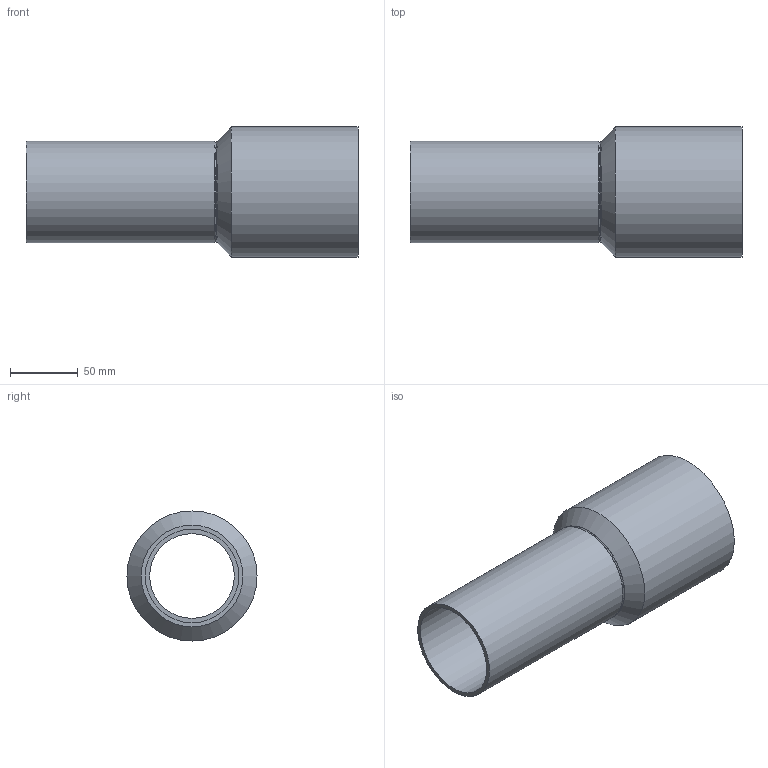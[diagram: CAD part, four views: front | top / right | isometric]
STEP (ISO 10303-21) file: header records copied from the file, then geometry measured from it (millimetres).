
FILE_DESCRIPTION(/* description */ (''),/* implementation_level */ '2;1');
FILE_NAME(/* name */ 'Z:\Geberit\Export\NewStep\152151.stp',/* time_stamp */ '2014-03-31T08:23:09+02:00',/* author */ ('nelson'),/* organization */ (''),/* preprocessor_version */ 'ST-DEVELOPER v15.2',/* originating_system */ 'Autodesk Inventor 2014',/* authorisation */ '');
FILE_SCHEMA (('AUTOMOTIVE_DESIGN { 1 0 10303 214 3 1 1 }'));
Length unit declared in the file: millimetre
Products named in the file (1): 152151
Bounding box: 245 x 96 x 96 mm (x, y, z)
Volume: 192714 mm3; surface area: 128568.8 mm2
Topology: 1 solids, 1 shells, 13 faces, 23 edges, 13 vertices
Faces by surface type: cylinder 6, cone 4, plane 3
Full cylindrical faces by diameter (mm): 62.5 x1, 69 x1, 75 x2, 90 x1, 96 x1
Entity records: 289 total; most frequent: DIRECTION 54, CARTESIAN_POINT 40, AXIS2_PLACEMENT_3D 27, EDGE_LOOP 26, ORIENTED_EDGE 26, FACE_BOUND 14, CIRCLE 13, VERTEX_POINT 13
